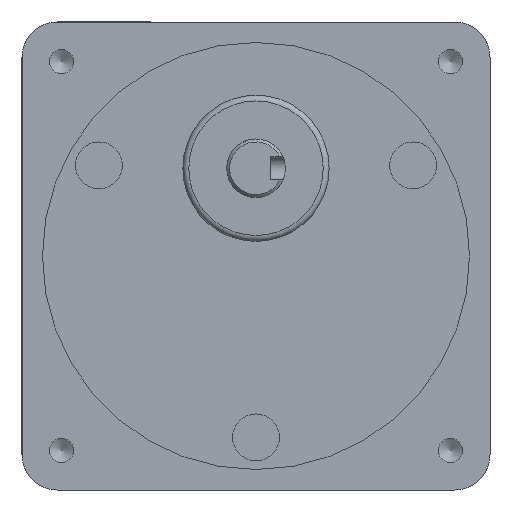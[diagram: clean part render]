
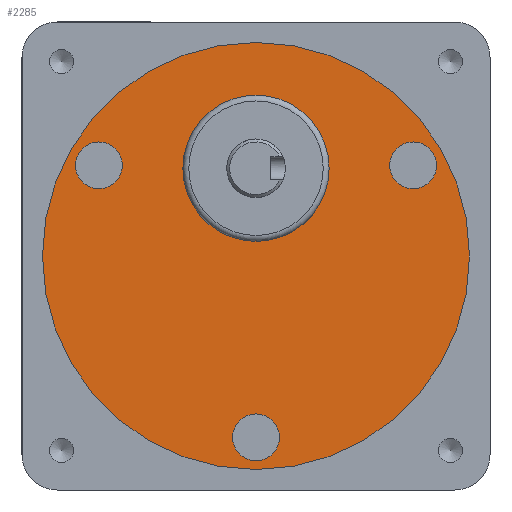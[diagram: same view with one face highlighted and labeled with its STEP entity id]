
A CAD part, front view. The second image highlights one B-rep face of the part: STEP entity #2285.
In plain terms, the highlighted planar face has unit normal (0, -1, 0).
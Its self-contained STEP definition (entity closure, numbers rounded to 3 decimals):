
#81=FACE_BOUND('',#449,.T.);
#82=FACE_BOUND('',#450,.T.);
#83=FACE_BOUND('',#451,.T.);
#156=PLANE('',#2657);
#281=FACE_OUTER_BOUND('',#448,.T.);
#448=EDGE_LOOP('',(#1931));
#449=EDGE_LOOP('',(#1932));
#450=EDGE_LOOP('',(#1933));
#451=EDGE_LOOP('',(#1934));
#925=CIRCLE('',#2643,4.);
#927=CIRCLE('',#2647,4.);
#929=CIRCLE('',#2651,4.);
#932=CIRCLE('',#2656,36.5);
#1109=VERTEX_POINT('',#3955);
#1111=VERTEX_POINT('',#3962);
#1113=VERTEX_POINT('',#3969);
#1116=VERTEX_POINT('',#3978);
#1388=EDGE_CURVE('',#1109,#1109,#925,.T.);
#1391=EDGE_CURVE('',#1111,#1111,#927,.T.);
#1394=EDGE_CURVE('',#1113,#1113,#929,.T.);
#1399=EDGE_CURVE('',#1116,#1116,#932,.T.);
#1931=ORIENTED_EDGE('',*,*,#1399,.T.);
#1932=ORIENTED_EDGE('',*,*,#1388,.T.);
#1933=ORIENTED_EDGE('',*,*,#1391,.T.);
#1934=ORIENTED_EDGE('',*,*,#1394,.T.);
#2285=ADVANCED_FACE('',(#281,#81,#82,#83),#156,.F.);
#2643=AXIS2_PLACEMENT_3D('',#3956,#3256,#3257);
#2647=AXIS2_PLACEMENT_3D('',#3963,#3265,#3266);
#2651=AXIS2_PLACEMENT_3D('',#3970,#3274,#3275);
#2656=AXIS2_PLACEMENT_3D('',#3980,#3286,#3287);
#2657=AXIS2_PLACEMENT_3D('',#3981,#3288,#3289);
#3256=DIRECTION('center_axis',(0.,1.,0.));
#3257=DIRECTION('ref_axis',(0.5,0.,-0.866));
#3265=DIRECTION('center_axis',(0.,1.,0.));
#3266=DIRECTION('ref_axis',(0.5,0.,0.866));
#3274=DIRECTION('center_axis',(0.,1.,0.));
#3275=DIRECTION('ref_axis',(-1.,0.,0.));
#3286=DIRECTION('center_axis',(0.,-1.,0.));
#3287=DIRECTION('ref_axis',(-1.,0.,0.));
#3288=DIRECTION('center_axis',(0.,1.,0.));
#3289=DIRECTION('ref_axis',(0.,0.,1.));
#3955=CARTESIAN_POINT('',(24.847,0.5,18.964));
#3956=CARTESIAN_POINT('Origin',(26.847,0.5,15.5));
#3962=CARTESIAN_POINT('',(-28.847,0.5,12.036));
#3963=CARTESIAN_POINT('Origin',(-26.847,0.5,15.5));
#3969=CARTESIAN_POINT('',(4.,0.5,-31.));
#3970=CARTESIAN_POINT('Origin',(0.,0.5,-31.));
#3978=CARTESIAN_POINT('',(36.5,0.5,0.));
#3980=CARTESIAN_POINT('Origin',(0.,0.5,0.));
#3981=CARTESIAN_POINT('Origin',(0.,0.5,0.));
